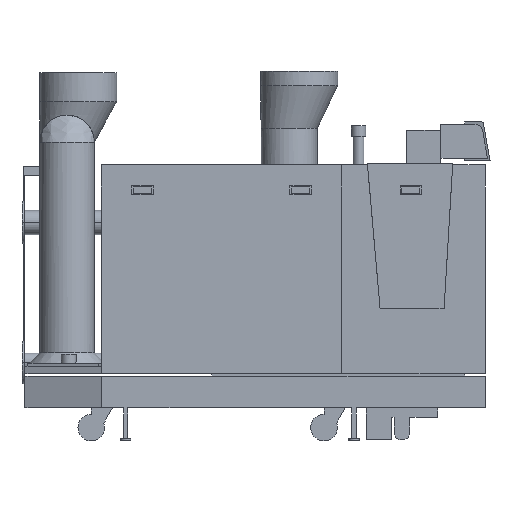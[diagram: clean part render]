
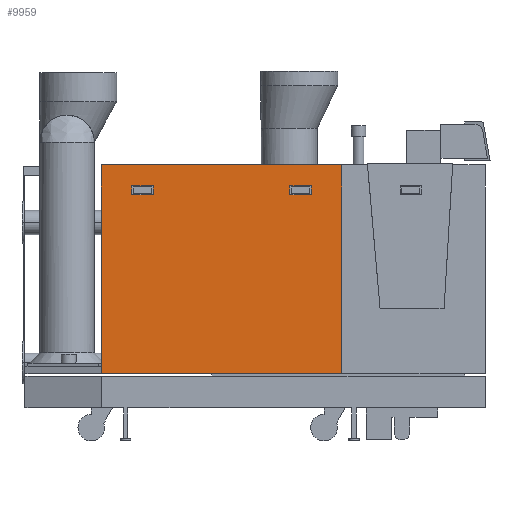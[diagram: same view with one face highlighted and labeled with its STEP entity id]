
A CAD part, front view. The second image highlights one B-rep face of the part: STEP entity #9959.
In plain terms, the highlighted planar face has unit normal (0, -1, 0).
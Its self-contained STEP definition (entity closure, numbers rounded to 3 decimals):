
#2217 = LINE ( 'NONE', #2232, #8323 ) ;
#2225 = LINE ( 'NONE', #2227, #8322 ) ;
#2226 = LINE ( 'NONE', #2235, #8324 ) ;
#2227 = CARTESIAN_POINT ( 'NONE',  ( 1235.272, 7., 344.677 ) ) ;
#2228 = DIRECTION ( 'NONE',  ( -1., 0., 0. ) ) ;
#2230 = LINE ( 'NONE', #2247, #8325 ) ;
#2232 = CARTESIAN_POINT ( 'NONE',  ( 419.272, 7., 205.677 ) ) ;
#2234 = DIRECTION ( 'NONE',  ( -1., 0., 0. ) ) ;
#2235 = CARTESIAN_POINT ( 'NONE',  ( 319.272, 7., 205.677 ) ) ;
#2236 = DIRECTION ( 'NONE',  ( 0., 0., 1. ) ) ;
#2237 = LINE ( 'NONE', #2238, #8326 ) ;
#2238 = CARTESIAN_POINT ( 'NONE',  ( 319.272, 7., 246.677 ) ) ;
#2239 = DIRECTION ( 'NONE',  ( 1., 0., 0. ) ) ;
#2240 = LINE ( 'NONE', #2241, #8327 ) ;
#2241 = CARTESIAN_POINT ( 'NONE',  ( 419.272, 7., 246.677 ) ) ;
#2242 = DIRECTION ( 'NONE',  ( 0., 0., -1. ) ) ;
#2243 = LINE ( 'NONE', #2245, #8328 ) ;
#2245 = CARTESIAN_POINT ( 'NONE',  ( -321.728, 7., 205.677 ) ) ;
#2246 = DIRECTION ( 'NONE',  ( -1., 0., 0. ) ) ;
#2247 = CARTESIAN_POINT ( 'NONE',  ( -421.728, 7., 205.677 ) ) ;
#2248 = DIRECTION ( 'NONE',  ( 0., 0., 1. ) ) ;
#2249 = LINE ( 'NONE', #2250, #8330 ) ;
#2250 = CARTESIAN_POINT ( 'NONE',  ( -421.728, 7., 246.677 ) ) ;
#2251 = DIRECTION ( 'NONE',  ( 1., 0., 0. ) ) ;
#2252 = LINE ( 'NONE', #2253, #8331 ) ;
#2253 = CARTESIAN_POINT ( 'NONE',  ( -321.728, 7., 246.677 ) ) ;
#2254 = DIRECTION ( 'NONE',  ( 0., 0., -1. ) ) ;
#2255 = LINE ( 'NONE', #2256, #8332 ) ;
#2256 = CARTESIAN_POINT ( 'NONE',  ( 1235.272, 7., -635. ) ) ;
#2257 = DIRECTION ( 'NONE',  ( -1., 0., 0. ) ) ;
#2258 = LINE ( 'NONE', #2259, #8333 ) ;
#2259 = CARTESIAN_POINT ( 'NONE',  ( 561.272, 7., -635. ) ) ;
#2260 = DIRECTION ( 'NONE',  ( 0., 0., 1. ) ) ;
#2261 = LINE ( 'NONE', #2262, #8334 ) ;
#2262 = CARTESIAN_POINT ( 'NONE',  ( -564.728, 7., -635. ) ) ;
#2263 = DIRECTION ( 'NONE',  ( 0., 0., 1. ) ) ;
#8322 = VECTOR ( 'NONE', #2228, 1000. ) ;
#8323 = VECTOR ( 'NONE', #2234, 1000. ) ;
#8324 = VECTOR ( 'NONE', #2236, 1000. ) ;
#8325 = VECTOR ( 'NONE', #2248, 1000. ) ;
#8326 = VECTOR ( 'NONE', #2239, 1000. ) ;
#8327 = VECTOR ( 'NONE', #2242, 1000. ) ;
#8328 = VECTOR ( 'NONE', #2246, 1000. ) ;
#8330 = VECTOR ( 'NONE', #2251, 1000. ) ;
#8331 = VECTOR ( 'NONE', #2254, 1000. ) ;
#8332 = VECTOR ( 'NONE', #2257, 1000. ) ;
#8333 = VECTOR ( 'NONE', #2260, 1000. ) ;
#8334 = VECTOR ( 'NONE', #2263, 1000. ) ;
#9959 = ADVANCED_FACE ( 'NONE', ( #11527, #11523, #11529 ), #11530, .T. ) ;
#10932 = VERTEX_POINT ( 'NONE', #15816 ) ;
#10934 = VERTEX_POINT ( 'NONE', #15818 ) ;
#10942 = VERTEX_POINT ( 'NONE', #15826 ) ;
#10943 = VERTEX_POINT ( 'NONE', #15827 ) ;
#11516 = DIRECTION ( 'NONE',  ( 0., -1., 0. ) ) ;
#11523 = FACE_BOUND ( 'NONE', #18710, .T. ) ;
#11526 = CARTESIAN_POINT ( 'NONE',  ( 1235.272, 7., -635. ) ) ;
#11527 = FACE_BOUND ( 'NONE', #18711, .T. ) ;
#11529 = FACE_OUTER_BOUND ( 'NONE', #18713, .T. ) ;
#11530 = PLANE ( 'NONE',  #11678 ) ;
#11532 = DIRECTION ( 'NONE',  ( 1., 0., 0. ) ) ;
#11678 = AXIS2_PLACEMENT_3D ( 'NONE', #11526, #11516, #11532 ) ;
#14123 = CARTESIAN_POINT ( 'NONE',  ( -421.728, 7., 246.677 ) ) ;
#14428 = CARTESIAN_POINT ( 'NONE',  ( -421.728, 7., 205.677 ) ) ;
#14452 = CARTESIAN_POINT ( 'NONE',  ( 419.272, 7., 246.677 ) ) ;
#14546 = CARTESIAN_POINT ( 'NONE',  ( -564.728, 7., -635. ) ) ;
#14571 = CARTESIAN_POINT ( 'NONE',  ( -321.728, 7., 246.677 ) ) ;
#14575 = CARTESIAN_POINT ( 'NONE',  ( 419.272, 7., 205.677 ) ) ;
#14579 = CARTESIAN_POINT ( 'NONE',  ( 319.272, 7., 205.677 ) ) ;
#14641 = CARTESIAN_POINT ( 'NONE',  ( 319.272, 7., 246.677 ) ) ;
#15816 = CARTESIAN_POINT ( 'NONE',  ( 561.272, 7., -635. ) ) ;
#15818 = CARTESIAN_POINT ( 'NONE',  ( -321.728, 7., 205.677 ) ) ;
#15826 = CARTESIAN_POINT ( 'NONE',  ( -564.728, 7., 344.677 ) ) ;
#15827 = CARTESIAN_POINT ( 'NONE',  ( 561.272, 7., 344.677 ) ) ;
#16610 = VERTEX_POINT ( 'NONE', #14428 ) ;
#16636 = VERTEX_POINT ( 'NONE', #14452 ) ;
#16730 = VERTEX_POINT ( 'NONE', #14546 ) ;
#16755 = VERTEX_POINT ( 'NONE', #14571 ) ;
#16759 = VERTEX_POINT ( 'NONE', #14575 ) ;
#16763 = VERTEX_POINT ( 'NONE', #14579 ) ;
#16825 = VERTEX_POINT ( 'NONE', #14641 ) ;
#17267 = VERTEX_POINT ( 'NONE', #14123 ) ;
#18301 = EDGE_CURVE ( 'NONE', #10943, #10942, #2225, .T. ) ;
#18303 = EDGE_CURVE ( 'NONE', #16759, #16763, #2217, .T. ) ;
#18304 = EDGE_CURVE ( 'NONE', #16763, #16825, #2226, .T. ) ;
#18305 = EDGE_CURVE ( 'NONE', #16825, #16636, #2237, .T. ) ;
#18306 = EDGE_CURVE ( 'NONE', #16636, #16759, #2240, .T. ) ;
#18307 = EDGE_CURVE ( 'NONE', #10934, #16610, #2243, .T. ) ;
#18308 = EDGE_CURVE ( 'NONE', #16610, #17267, #2230, .T. ) ;
#18309 = EDGE_CURVE ( 'NONE', #17267, #16755, #2249, .T. ) ;
#18310 = EDGE_CURVE ( 'NONE', #16755, #10934, #2252, .T. ) ;
#18311 = EDGE_CURVE ( 'NONE', #10932, #16730, #2255, .T. ) ;
#18312 = EDGE_CURVE ( 'NONE', #10932, #10943, #2258, .T. ) ;
#18313 = EDGE_CURVE ( 'NONE', #16730, #10942, #2261, .T. ) ;
#18710 = EDGE_LOOP ( 'NONE', ( #19434, #19435, #19436, #19437 ) ) ;
#18711 = EDGE_LOOP ( 'NONE', ( #19430, #19431, #19432, #19433 ) ) ;
#18713 = EDGE_LOOP ( 'NONE', ( #19438, #19439, #19440, #19441 ) ) ;
#19430 = ORIENTED_EDGE ( 'NONE', *, *, #18303, .T. ) ;
#19431 = ORIENTED_EDGE ( 'NONE', *, *, #18304, .T. ) ;
#19432 = ORIENTED_EDGE ( 'NONE', *, *, #18305, .T. ) ;
#19433 = ORIENTED_EDGE ( 'NONE', *, *, #18306, .T. ) ;
#19434 = ORIENTED_EDGE ( 'NONE', *, *, #18307, .T. ) ;
#19435 = ORIENTED_EDGE ( 'NONE', *, *, #18308, .T. ) ;
#19436 = ORIENTED_EDGE ( 'NONE', *, *, #18309, .T. ) ;
#19437 = ORIENTED_EDGE ( 'NONE', *, *, #18310, .T. ) ;
#19438 = ORIENTED_EDGE ( 'NONE', *, *, #18311, .F. ) ;
#19439 = ORIENTED_EDGE ( 'NONE', *, *, #18312, .T. ) ;
#19440 = ORIENTED_EDGE ( 'NONE', *, *, #18301, .T. ) ;
#19441 = ORIENTED_EDGE ( 'NONE', *, *, #18313, .F. ) ;
